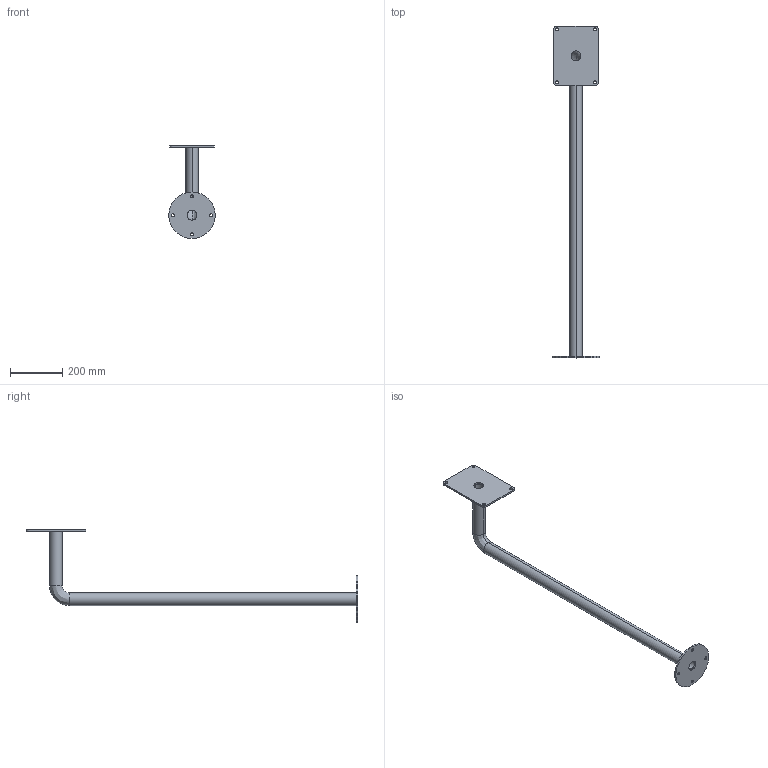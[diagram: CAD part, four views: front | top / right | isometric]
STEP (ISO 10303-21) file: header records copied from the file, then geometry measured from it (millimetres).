
FILE_DESCRIPTION (( 'STEP AP203' ), '1' );
FILE_NAME ('cad-157_Curb_Mount_dwg.STEP', '2019-05-03T02:42:04', ( '' ), ( '' ), 'SwSTEP 2.0', 'SolidWorks 2018', '' );
FILE_SCHEMA (( 'CONFIG_CONTROL_DESIGN' ));
Length unit declared in the file: inch
Products named in the file (1): cad-157_Curb_Mount_dwg
Bounding box: 177.8 x 1270 x 355.6 mm (x, y, z)
Volume: 1102067.2 mm3; surface area: 523194.6 mm2
Topology: 3 solids, 3 shells, 48 faces, 118 edges, 76 vertices
Faces by surface type: cylinder 34, plane 10, bspline 4
Entity records: 1613 total; most frequent: CARTESIAN_POINT 303, DIRECTION 280, ORIENTED_EDGE 236, EDGE_CURVE 118, AXIS2_PLACEMENT_3D 117, VERTEX_POINT 76, CIRCLE 72, EDGE_LOOP 70
